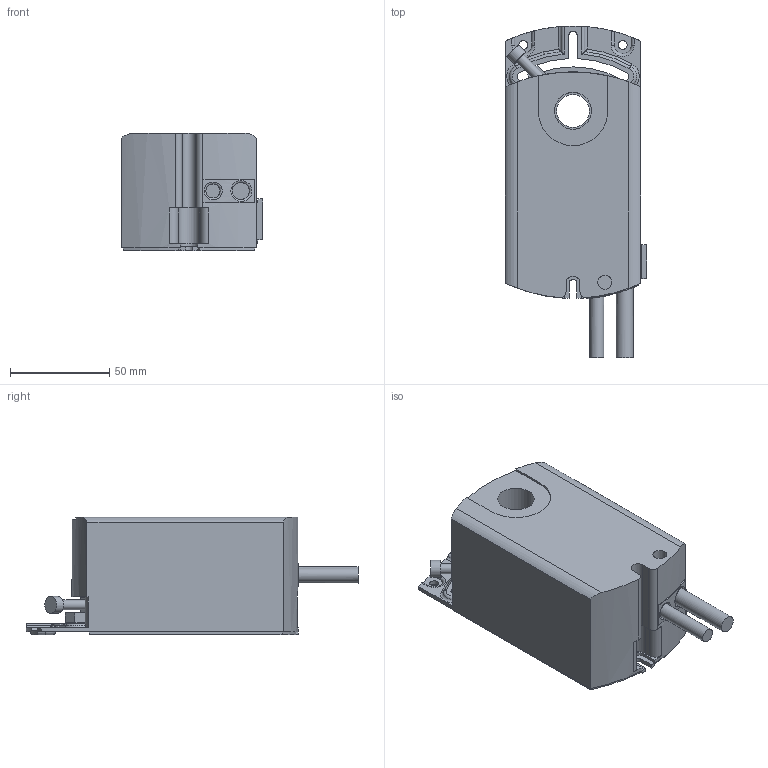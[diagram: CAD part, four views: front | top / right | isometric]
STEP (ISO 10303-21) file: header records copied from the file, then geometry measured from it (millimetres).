
FILE_DESCRIPTION(/* description */ (''),/* implementation_level */ '2;1');
FILE_NAME(/* name */ 'BABY_GAP_ROTARY.stp',/* time_stamp */ '2010-10-27T10:53:41+02:00',/* author */ (''),/* organization */ (''),/* preprocessor_version */ 'ST-DEVELOPER v11',/* originating_system */ 'SIEMENS UGS NX 6.0',/* authorisation */ '');
FILE_SCHEMA (('AUTOMOTIVE_DESIGN { 1 0 10303 214 1 1 1 1 }'));
Length unit declared in the file: millimetre
Products named in the file (1): ZUG-025490_01
Bounding box: 71 x 166.99 x 59 mm (x, y, z)
Volume: 405085.1 mm3; surface area: 46482.4 mm2
Topology: 1 solids, 1 shells, 165 faces, 454 edges, 302 vertices
Faces by surface type: plane 74, cylinder 66, torus 19, bspline 6
Full cylindrical faces by diameter (mm): 4.5 x2, 5 x1, 7 x2, 8.5 x2, 16.5 x1, 18.5 x1, 21 x1
Entity records: 5801 total; most frequent: CARTESIAN_POINT 1529, DIRECTION 912, ORIENTED_EDGE 876, EDGE_CURVE 438, AXIS2_PLACEMENT_3D 346, VERTEX_POINT 298, LINE 220, VECTOR 220
